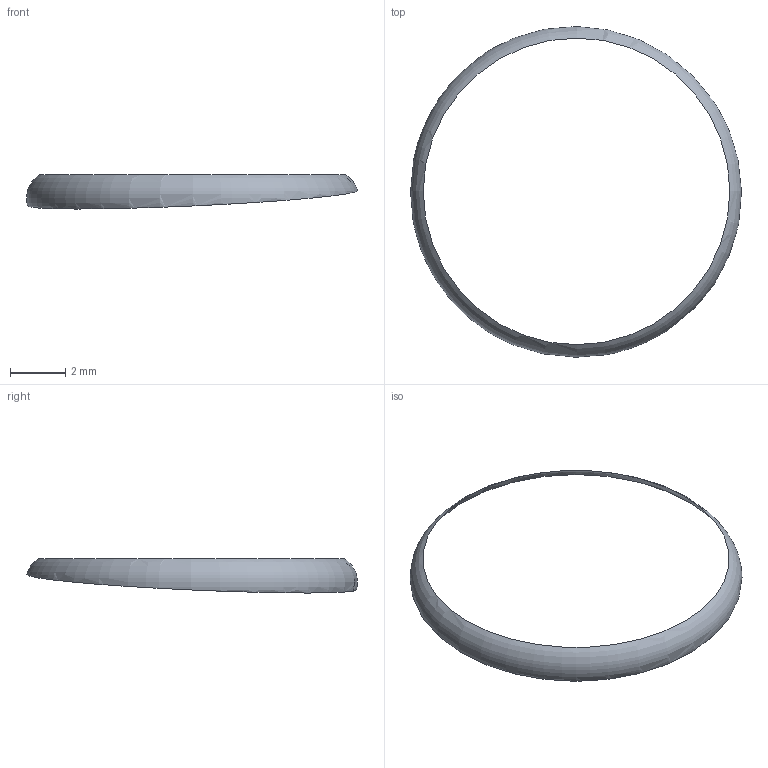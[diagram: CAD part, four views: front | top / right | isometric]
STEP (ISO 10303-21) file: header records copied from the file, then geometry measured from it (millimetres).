
FILE_DESCRIPTION(('BRL-CAD AP203 toroidal band/profile-seam fixture'),'2;1');
FILE_NAME('ap203_toroidal_band_profile_seam.stp','2026-07-23T00:00:00',('BRL-CAD'),('BRL-CAD'),'','','');
FILE_SCHEMA(('CONFIG_CONTROL_DESIGN'));
Length unit declared in the file: millimetre
Products named in the file (1): toroidal_band_profile_seam
Bounding box: 11.96 x 11.96 x 1.23 mm (x, y, z)
Surface area: 36.7 mm2 (no closed solid volume)
Topology: 0 solids, 1 shells, 1 faces, 4 edges, 3 vertices
Faces by surface type: torus 1
Entity records: 74 total; most frequent: CARTESIAN_POINT 36, VERTEX_POINT 3, EDGE_CURVE 3, ORIENTED_EDGE 3, DIRECTION 2, AXIS2_PLACEMENT_3D 2, POLYLINE 2, EDGE_LOOP 2
